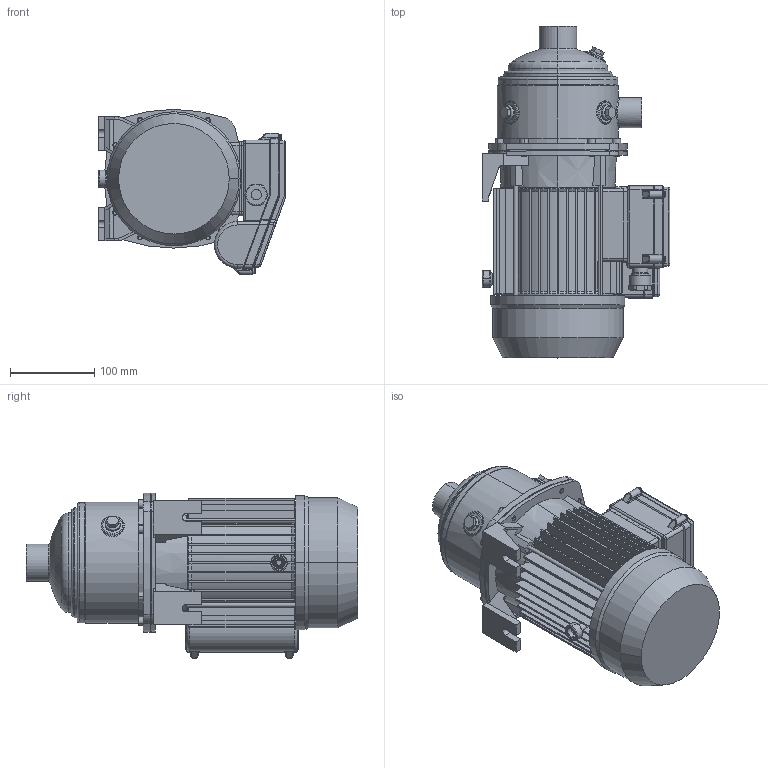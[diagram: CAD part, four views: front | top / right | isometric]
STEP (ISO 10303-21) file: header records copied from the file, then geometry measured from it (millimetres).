
FILE_DESCRIPTION((''),'2;1');
FILE_NAME('MATRIX_5-3T6_1_3_M_ASM','2017-10-10T',('shehi'),('"Ebara Pumps Europe +39.444.706811"'),'PRO/ENGINEER BY PARAMETRIC TECHNOLOGY CORPORATION, 2014200','PRO/ENGINEER BY PARAMETRIC TECHNOLOGY CORPORATION, 2014200','');
FILE_SCHEMA(('AUTOMOTIVE_DESIGN { 1 0 10303 214 1 1 1 1 }'));
Length unit declared in the file: millimetre
Products named in the file (6): CORPO_POMPA_MATRIX_5-2_3; SUPPORTO_MATRIX_MEC_80; MEC_80_MONOFASE; COPRIMORSETTIERA_MEC80_90_M; 72229; MATRIX_5-3T6_1_3_M_ASM
Assembly tree (5 placements, depth 2):
  MATRIX_5-3T6_1_3_M_ASM
    CORPO_POMPA_MATRIX_5-2_3
    SUPPORTO_MATRIX_MEC_80
    MEC_80_MONOFASE
    COPRIMORSETTIERA_MEC80_90_M
    72229
Bounding box: 223 x 394.8 x 196.5 mm (x, y, z)
Volume: 5198937.7 mm3; surface area: 569488.7 mm2
Topology: 5 solids, 5 shells, 960 faces, 2294 edges, 1391 vertices
Faces by surface type: plane 427, cylinder 303, cone 108, torus 62, bspline 56, sphere 4
Entity records: 38929 total; most frequent: CARTESIAN_POINT 9133, DIRECTION 4712, ORIENTED_EDGE 4588, EDGE_CURVE 2294, PRESENTATION_STYLE_ASSIGNMENT 2248, STYLED_ITEM 2248, CURVE_STYLE 2244, AXIS2_PLACEMENT_3D 1815
